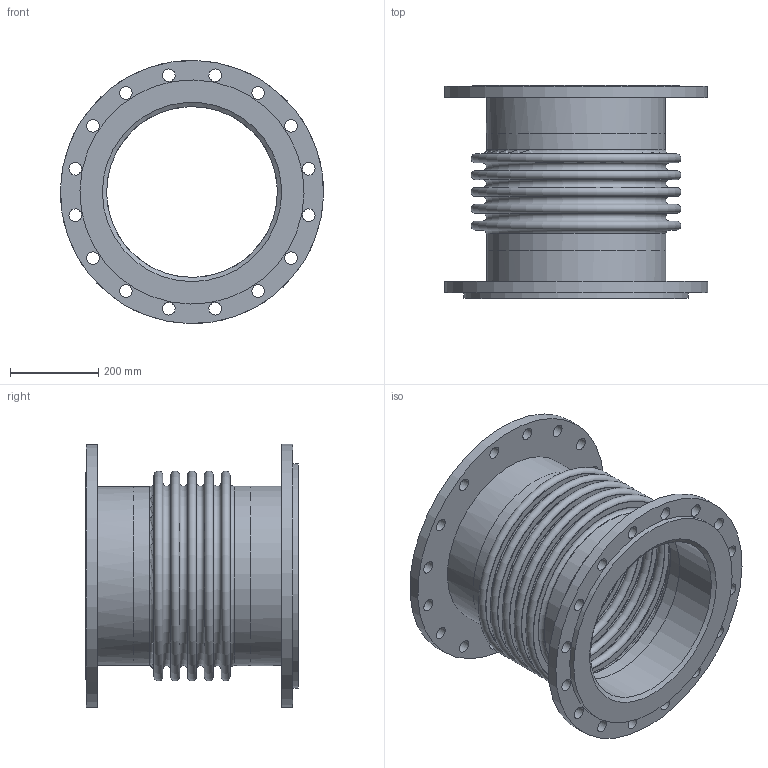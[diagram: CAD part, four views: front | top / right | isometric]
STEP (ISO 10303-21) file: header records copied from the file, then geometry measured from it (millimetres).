
FILE_DESCRIPTION(/* description */ (''),/* implementation_level */ '2;1');
FILE_NAME(/* name */ 'C:\001_Work\Designs\EFL50-ASA150LB\EFL50-16x19 (ASA150LB).stp',/* time_stamp */ '2016-05-10T23:15:18-04:00',/* author */ ('rramoutar'),/* organization */ ('Mason Industries Inc.'),/* preprocessor_version */ 'ST-DEVELOPER v15.6',/* originating_system */ 'Autodesk Inventor 2015',/* authorisation */ '');
FILE_SCHEMA (('CONFIG_CONTROL_DESIGN'));
Length unit declared in the file: inch
Products named in the file (1): EFL50-16x19
Bounding box: 596.76 x 482.6 x 596.76 mm (x, y, z)
Volume: 10542973.3 mm3; surface area: 2782336.2 mm2
Topology: 1 solids, 1 shells, 97 faces, 204 edges, 136 vertices
Faces by surface type: cylinder 43, plane 29, torus 22, cone 3
Full cylindrical faces by diameter (mm): 28.575 x32, 387.35 x2, 404.368 x2, 406.4 x2, 450.85 x1, 469.9 x1, 508 x1, 596.9 x2
Entity records: 2533 total; most frequent: DIRECTION 454, CARTESIAN_POINT 356, EDGE_LOOP 258, ORIENTED_EDGE 258, AXIS2_PLACEMENT_3D 227, FACE_BOUND 161, CIRCLE 129, VERTEX_POINT 129
